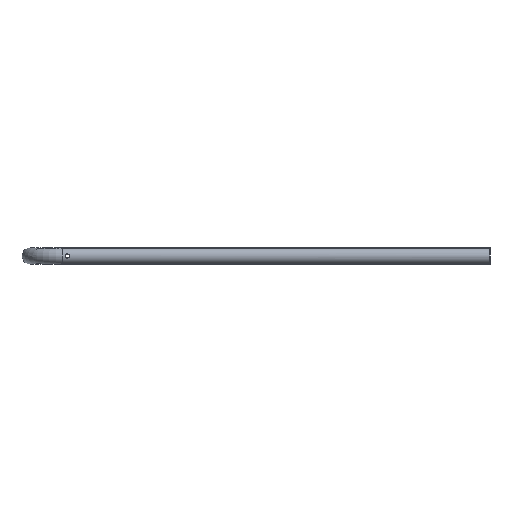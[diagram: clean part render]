
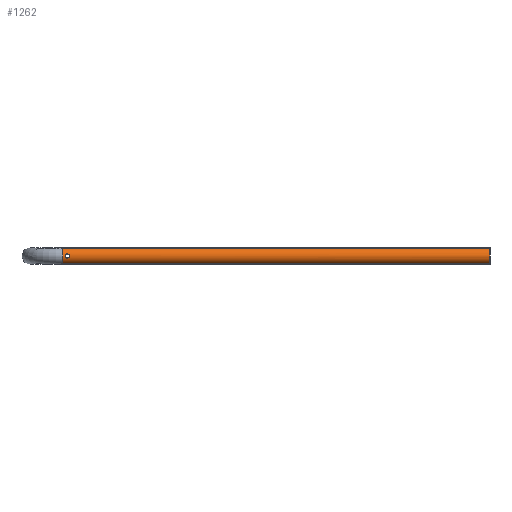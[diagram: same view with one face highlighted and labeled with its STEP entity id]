
A CAD part, left-side view. The second image highlights one B-rep face of the part: STEP entity #1262.
In plain terms, the highlighted cylindrical face has radius 21.2 mm (diameter 42.4 mm), a full revolution.
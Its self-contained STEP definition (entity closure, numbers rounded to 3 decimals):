
#153=CARTESIAN_POINT('',(20.474,1001.2,-5.5));
#154=VERTEX_POINT('',#153);
#155=CARTESIAN_POINT('',(20.474,1001.2,-5.5));
#156=CARTESIAN_POINT('',(20.474,1000.506,-5.5));
#157=CARTESIAN_POINT('',(20.513,999.768,-5.361));
#158=CARTESIAN_POINT('',(20.652,998.414,-4.798));
#159=CARTESIAN_POINT('',(20.749,997.797,-4.376));
#160=CARTESIAN_POINT('',(20.931,996.824,-3.403));
#161=CARTESIAN_POINT('',(21.027,996.402,-2.786));
#162=CARTESIAN_POINT('',(21.163,995.839,-1.432));
#163=CARTESIAN_POINT('',(21.2,995.7,-0.694));
#164=CARTESIAN_POINT('',(21.2,995.7,0.694));
#165=CARTESIAN_POINT('',(21.163,995.839,1.432));
#166=CARTESIAN_POINT('',(21.027,996.402,2.786));
#167=CARTESIAN_POINT('',(20.931,996.824,3.403));
#168=CARTESIAN_POINT('',(20.749,997.797,4.376));
#169=CARTESIAN_POINT('',(20.652,998.414,4.798));
#170=CARTESIAN_POINT('',(20.513,999.768,5.361));
#171=CARTESIAN_POINT('',(20.474,1000.506,5.5));
#172=CARTESIAN_POINT('',(20.474,1001.894,5.5));
#173=CARTESIAN_POINT('',(20.513,1002.632,5.361));
#174=CARTESIAN_POINT('',(20.652,1003.986,4.798));
#175=CARTESIAN_POINT('',(20.749,1004.603,4.376));
#176=CARTESIAN_POINT('',(20.931,1005.576,3.403));
#177=CARTESIAN_POINT('',(21.027,1005.998,2.786));
#178=CARTESIAN_POINT('',(21.163,1006.561,1.432));
#179=CARTESIAN_POINT('',(21.2,1006.7,0.694));
#180=CARTESIAN_POINT('',(21.2,1006.7,-0.694));
#181=CARTESIAN_POINT('',(21.163,1006.561,-1.432));
#182=CARTESIAN_POINT('',(21.027,1005.998,-2.786));
#183=CARTESIAN_POINT('',(20.931,1005.576,-3.403));
#184=CARTESIAN_POINT('',(20.749,1004.603,-4.376));
#185=CARTESIAN_POINT('',(20.652,1003.986,-4.798));
#186=CARTESIAN_POINT('',(20.513,1002.632,-5.361));
#187=CARTESIAN_POINT('',(20.474,1001.894,-5.5));
#188=CARTESIAN_POINT('',(20.474,1001.2,-5.5));
#189=B_SPLINE_CURVE_WITH_KNOTS('',3,(#155,#156,#157,#158,#159,#160,#161,#162,#163,#164,#165,#166,#167,#168,#169,#170,#171,#172,#173,#174,#175,#176,#177,#178,#179,#180,#181,#182,#183,#184,#185,#186,#187,#188),.UNSPECIFIED.,.T.,.U.,(4,2,2,2,2,2,2,2,2,2,2,2,2,2,2,2,4),(0.0,0.208,0.416,0.625,0.833,1.041,1.249,1.457,1.666,1.874,2.082,2.29,2.498,2.707,2.915,3.123,3.331),.UNSPECIFIED.);
#190=EDGE_CURVE('',#154,#154,#189,.T.);
#241=CARTESIAN_POINT('',(-20.474,1001.2,-5.5));
#242=VERTEX_POINT('',#241);
#243=CARTESIAN_POINT('',(-20.474,1001.2,-5.5));
#244=CARTESIAN_POINT('',(-20.474,1001.894,-5.5));
#245=CARTESIAN_POINT('',(-20.513,1002.632,-5.361));
#246=CARTESIAN_POINT('',(-20.652,1003.986,-4.798));
#247=CARTESIAN_POINT('',(-20.749,1004.603,-4.376));
#248=CARTESIAN_POINT('',(-20.931,1005.576,-3.403));
#249=CARTESIAN_POINT('',(-21.027,1005.998,-2.786));
#250=CARTESIAN_POINT('',(-21.163,1006.561,-1.432));
#251=CARTESIAN_POINT('',(-21.2,1006.7,-0.694));
#252=CARTESIAN_POINT('',(-21.2,1006.7,0.694));
#253=CARTESIAN_POINT('',(-21.163,1006.561,1.432));
#254=CARTESIAN_POINT('',(-21.027,1005.998,2.786));
#255=CARTESIAN_POINT('',(-20.931,1005.576,3.403));
#256=CARTESIAN_POINT('',(-20.749,1004.603,4.376));
#257=CARTESIAN_POINT('',(-20.652,1003.986,4.798));
#258=CARTESIAN_POINT('',(-20.513,1002.632,5.361));
#259=CARTESIAN_POINT('',(-20.474,1001.894,5.5));
#260=CARTESIAN_POINT('',(-20.474,1000.506,5.5));
#261=CARTESIAN_POINT('',(-20.513,999.768,5.361));
#262=CARTESIAN_POINT('',(-20.652,998.414,4.798));
#263=CARTESIAN_POINT('',(-20.749,997.797,4.376));
#264=CARTESIAN_POINT('',(-20.931,996.824,3.403));
#265=CARTESIAN_POINT('',(-21.027,996.402,2.786));
#266=CARTESIAN_POINT('',(-21.163,995.839,1.432));
#267=CARTESIAN_POINT('',(-21.2,995.7,0.694));
#268=CARTESIAN_POINT('',(-21.2,995.7,-0.694));
#269=CARTESIAN_POINT('',(-21.163,995.839,-1.432));
#270=CARTESIAN_POINT('',(-21.027,996.402,-2.786));
#271=CARTESIAN_POINT('',(-20.931,996.824,-3.403));
#272=CARTESIAN_POINT('',(-20.749,997.797,-4.376));
#273=CARTESIAN_POINT('',(-20.652,998.414,-4.798));
#274=CARTESIAN_POINT('',(-20.513,999.768,-5.361));
#275=CARTESIAN_POINT('',(-20.474,1000.506,-5.5));
#276=CARTESIAN_POINT('',(-20.474,1001.2,-5.5));
#277=B_SPLINE_CURVE_WITH_KNOTS('',3,(#243,#244,#245,#246,#247,#248,#249,#250,#251,#252,#253,#254,#255,#256,#257,#258,#259,#260,#261,#262,#263,#264,#265,#266,#267,#268,#269,#270,#271,#272,#273,#274,#275,#276),.UNSPECIFIED.,.T.,.U.,(4,2,2,2,2,2,2,2,2,2,2,2,2,2,2,2,4),(0.0,0.208,0.416,0.625,0.833,1.041,1.249,1.457,1.666,1.874,2.082,2.29,2.498,2.707,2.915,3.123,3.331),.UNSPECIFIED.);
#278=EDGE_CURVE('',#242,#242,#277,.T.);
#1225=CARTESIAN_POINT('',(-21.2,1013.5,0.));
#1226=VERTEX_POINT('',#1225);
#1227=CARTESIAN_POINT('',(0.0,1013.5,0.0));
#1228=DIRECTION('',(0.0,-1.0,0.0));
#1229=DIRECTION('',(1.0,0.0,0.0));
#1230=AXIS2_PLACEMENT_3D('',#1227,#1228,#1229);
#1231=CIRCLE('',#1230,21.2);
#1232=EDGE_CURVE('',#1226,#1226,#1231,.T.);
#1237=CARTESIAN_POINT('',(0.0,-116.,0.0));
#1238=DIRECTION('',(0.0,1.0,0.0));
#1239=DIRECTION('',(1.0,0.0,0.0));
#1240=AXIS2_PLACEMENT_3D('',#1237,#1238,#1239);
#1241=CYLINDRICAL_SURFACE('',#1240,21.2);
#1242=ORIENTED_EDGE('',*,*,#1232,.T.);
#1243=EDGE_LOOP('',(#1242));
#1244=FACE_OUTER_BOUND('',#1243,.T.);
#1245=ORIENTED_EDGE('',*,*,#190,.T.);
#1246=EDGE_LOOP('',(#1245));
#1247=FACE_BOUND('',#1246,.T.);
#1248=ORIENTED_EDGE('',*,*,#278,.T.);
#1249=EDGE_LOOP('',(#1248));
#1250=FACE_BOUND('',#1249,.T.);
#1251=CARTESIAN_POINT('',(-21.2,-116.,0.));
#1252=VERTEX_POINT('',#1251);
#1253=CARTESIAN_POINT('',(0.0,-116.,0.0));
#1254=DIRECTION('',(0.0,-1.0,0.0));
#1255=DIRECTION('',(1.0,0.0,0.0));
#1256=AXIS2_PLACEMENT_3D('',#1253,#1254,#1255);
#1257=CIRCLE('',#1256,21.2);
#1258=EDGE_CURVE('',#1252,#1252,#1257,.T.);
#1259=ORIENTED_EDGE('',*,*,#1258,.F.);
#1260=EDGE_LOOP('',(#1259));
#1261=FACE_BOUND('',#1260,.T.);
#1262=ADVANCED_FACE('',(#1244,#1247,#1250,#1261),#1241,.T.);
